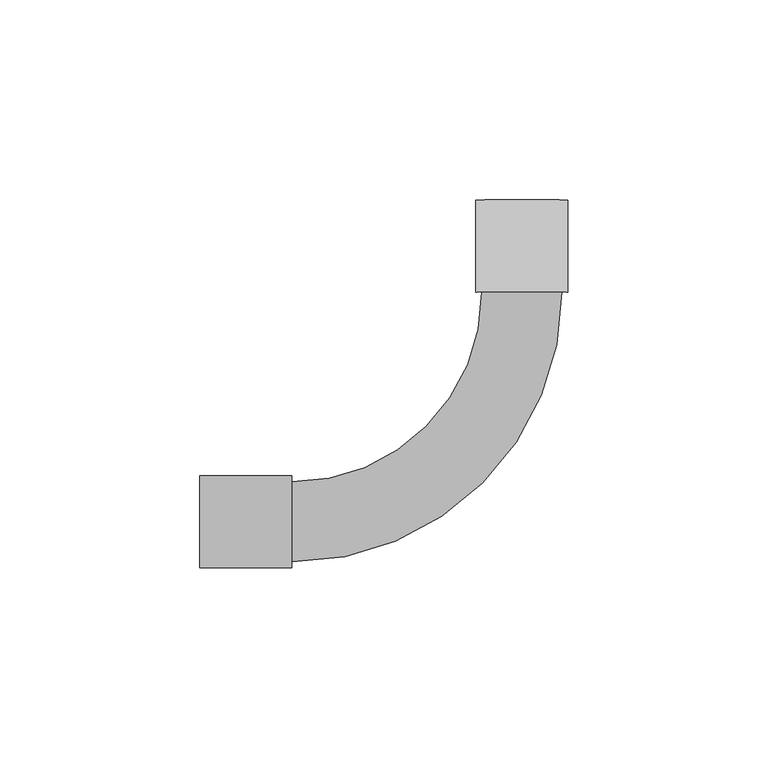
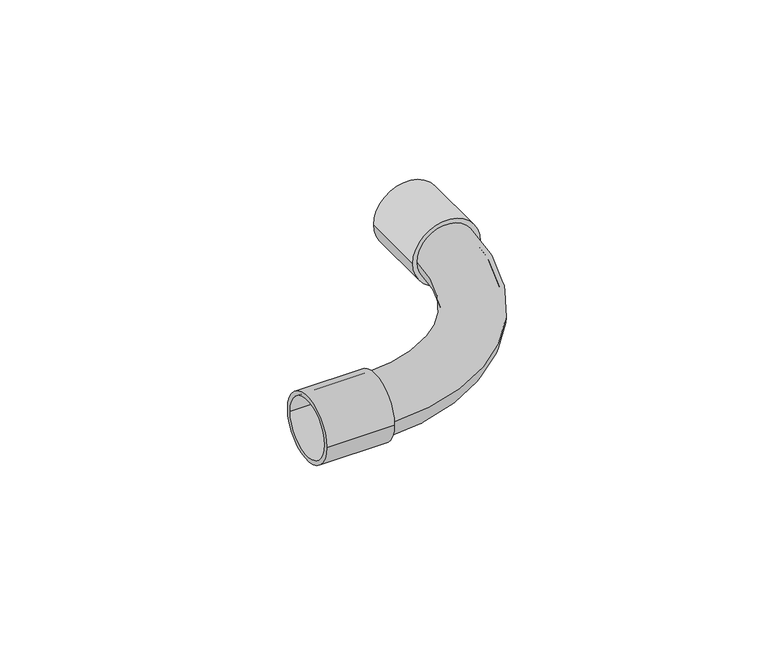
"""IFC4 building model written with IfcOpenShell, lengths in millimetres: cable carrier fitting geometry."""

import ifcopenshell
import ifcopenshell.guid

model = None  # the IFC model being written
_history = None  # IfcOwnerHistory: only IFC2X3 demands one
_inside = {}  # id of a spatial element -> (the spatial element, [elements in it])
_under = {}  # id of a project, library or spatial element -> (it, [spatial elements below it])
_declared = {}  # id of a project -> (the project, [libraries it declares])
_typed = {}  # id of a type object -> (the type object, [elements of that type])
_made_of = {}  # id of a material, layer set ... -> (it, [elements and type objects made of it])


def new_model(schema):
    """Start an empty IFC model of exactly this schema.

    Asked for "IFC4X3", IfcOpenShell would pick the latest addendum, in which some entities
    have other attributes; the version numbers below select the first issue.
    IFC2X3 requires an IfcOwnerHistory on every rooted entity: one is made here for all.
    """
    global model, _history
    if schema == "IFC4X3":
        model = ifcopenshell.file(schema_version=(4, 3, 0, 0))
    else:
        model = ifcopenshell.file(schema=schema)
    _inside.clear()
    _under.clear()
    _declared.clear()
    _typed.clear()
    _made_of.clear()
    _history = None
    if model.schema == "IFC2X3":
        org = make("IfcOrganization", Name="unknown")
        user = make(
            "IfcPersonAndOrganization",
            ThePerson=make("IfcPerson", FamilyName="unknown"),
            TheOrganization=org,
        )
        app = make(
            "IfcApplication",
            ApplicationDeveloper=org,
            Version="unknown",
            ApplicationFullName="unknown",
            ApplicationIdentifier="unknown",
        )
        _history = make(
            "IfcOwnerHistory",
            OwningUser=user,
            OwningApplication=app,
            ChangeAction="ADDED",
            CreationDate=0,
        )
    return model


def make(cls, **values):
    """One entity of the class cls with the attributes given. An attribute that is None is left unset."""
    return model.create_entity(
        cls, **{name: value for name, value in values.items() if value is not None}
    )


def rooted(cls, **values):
    """An entity with a GlobalId (a new one), such as an element, a storey or a relation."""
    return make(cls, GlobalId=ifcopenshell.guid.new(), OwnerHistory=_history, **values)


def si_unit(unit_type, name, prefix=None):
    """IfcSIUnit, for example si_unit("LENGTHUNIT", "METRE", prefix="MILLI")."""
    return make("IfcSIUnit", UnitType=unit_type, Prefix=prefix, Name=name)


def assignment(units):
    """IfcUnitAssignment: the units of a project."""
    return None if units is None else make("IfcUnitAssignment", Units=units)


def point(xyz):
    """IfcCartesianPoint."""
    return None if xyz is None else make("IfcCartesianPoint", Coordinates=xyz)


def direction(xyz):
    """IfcDirection."""
    return None if xyz is None else make("IfcDirection", DirectionRatios=xyz)


def frame(location, z_axis=None, x_axis=None):
    """IfcAxis2Placement3D, a coordinate frame: its origin and axes. An axis left out is left unset."""
    return make(
        "IfcAxis2Placement3D",
        Location=point(location),
        Axis=direction(z_axis),
        RefDirection=direction(x_axis),
    )


def frame_2d(location, x_axis=None):
    """IfcAxis2Placement2D, a coordinate frame in the plane: its origin and x axis."""
    return make(
        "IfcAxis2Placement2D", Location=point(location), RefDirection=direction(x_axis)
    )


def origin():
    """The frame at (0, 0, 0) with its axes left unset."""
    return frame((0.0, 0.0, 0.0))


def origin_2d():
    """The frame at (0, 0) in the plane with its x axis left unset."""
    return frame_2d((0.0, 0.0))


def place(relative_to, where):
    """IfcLocalPlacement: puts the frame where relative to a parent placement (None: the world)."""
    return make(
        "IfcLocalPlacement", PlacementRelTo=relative_to, RelativePlacement=where
    )


def context(
    kind, dimensions, precision=None, world=None, true_north=None, identifier=None
):
    """IfcGeometricRepresentationContext, for example the 3D "Model" context."""
    return make(
        "IfcGeometricRepresentationContext",
        ContextIdentifier=identifier,
        ContextType=kind,
        CoordinateSpaceDimension=dimensions,
        Precision=precision,
        WorldCoordinateSystem=world,
        TrueNorth=true_north,
    )


def project(units=None, contexts=None):
    """IfcProject with its units and contexts."""
    return rooted(
        "IfcProject",
        Name="project",
        RepresentationContexts=contexts,
        UnitsInContext=assignment(units),
    )


def spatial(cls, under=None, at=None, **own):
    """A site, building, storey or space (cls), placed at a placement, below another one or the project."""
    s = rooted(cls, ObjectPlacement=at, **own)
    if under is not None:
        _under.setdefault(under.id(), (under, []))[1].append(s)
    return s


def circle_curve(where, radius):
    """IfcCircle in the frame where."""
    return make("IfcCircle", Position=where, Radius=radius)


def ellipse_curve(where, semi_axis1, semi_axis2):
    """IfcEllipse in the frame where."""
    return make(
        "IfcEllipse", Position=where, SemiAxis1=semi_axis1, SemiAxis2=semi_axis2
    )


def trimmed(basis, trim1, trim2, sense, master):
    """IfcTrimmedCurve: the piece of a basis curve between two trims."""
    return make(
        "IfcTrimmedCurve",
        BasisCurve=basis,
        Trim1=trim1,
        Trim2=trim2,
        SenseAgreement=sense,
        MasterRepresentation=master,
    )


def segment(curve, same_sense, transition):
    """IfcCompositeCurveSegment."""
    return make(
        "IfcCompositeCurveSegment",
        Transition=transition,
        SameSense=same_sense,
        ParentCurve=curve,
    )


def composite_curve(segments, self_intersect=None):
    """IfcCompositeCurve: segments joined end to end."""
    return make("IfcCompositeCurve", Segments=segments, SelfIntersect=self_intersect)


def outline(outer, holes=None, kind="AREA"):
    """IfcArbitraryClosedProfileDef: a profile drawn as a closed curve; with holes, ...WithVoids."""
    if holes is None:
        return make("IfcArbitraryClosedProfileDef", ProfileType=kind, OuterCurve=outer)
    return make(
        "IfcArbitraryProfileDefWithVoids",
        ProfileType=kind,
        OuterCurve=outer,
        InnerCurves=holes,
    )


def extrude(swept, where, along, depth):
    """IfcExtrudedAreaSolid: the profile swept, set in the frame where, extruded along a direction by depth."""
    return make(
        "IfcExtrudedAreaSolid",
        SweptArea=swept,
        Position=where,
        ExtrudedDirection=direction(along),
        Depth=depth,
    )


def shape(context_of_items, identifier, shape_type, items):
    """IfcShapeRepresentation: the items that make up one representation, for example the "Body"."""
    return make(
        "IfcShapeRepresentation",
        ContextOfItems=context_of_items,
        RepresentationIdentifier=identifier,
        RepresentationType=shape_type,
        Items=items,
    )


def source(mapping_origin, context_of_items, identifier, shape_type, items):
    """IfcRepresentationMap: a shape defined once, which mapped items show again and again."""
    return make(
        "IfcRepresentationMap",
        MappingOrigin=mapping_origin,
        MappedRepresentation=shape(context_of_items, identifier, shape_type, items),
    )


def transform(
    local_origin,
    x_axis=None,
    y_axis=None,
    z_axis=None,
    scale=None,
    scale2=None,
    scale3=None,
    uniform=True,
):
    """IfcCartesianTransformationOperator3D, or its non-uniform kind. x_axis, y_axis, z_axis: its Axis1, 2, 3."""
    if uniform:
        return make(
            "IfcCartesianTransformationOperator3D",
            Axis1=direction(x_axis),
            Axis2=direction(y_axis),
            LocalOrigin=point(local_origin),
            Scale=scale,
            Axis3=direction(z_axis),
        )
    return make(
        "IfcCartesianTransformationOperator3DnonUniform",
        Axis1=direction(x_axis),
        Axis2=direction(y_axis),
        LocalOrigin=point(local_origin),
        Scale=scale,
        Axis3=direction(z_axis),
        Scale2=scale2,
        Scale3=scale3,
    )


def mapped(mapping_source, mapping_target):
    """IfcMappedItem: shows the shape of a source again, moved by a transform."""
    return make(
        "IfcMappedItem", MappingSource=mapping_source, MappingTarget=mapping_target
    )


def made_of(thing, what):
    """Note that an element or type object is made of a material, layer set ...; save() writes the relation."""
    if what is not None:
        _made_of.setdefault(what.id(), (what, []))[1].append(thing)
    return thing


def element(
    cls,
    number,
    at=None,
    inside=None,
    cuts=None,
    type_object=None,
    material=None,
    context=None,
    identifier="Body",
    shape_type=None,
    held_by="IfcProductDefinitionShape",
    body=None,
    shapes=None,
    **own,
):
    """One element of the class cls, such as IfcWall. Its Tag is "e" and its number.

    at: its placement. inside: the storey or other place that contains it. cuts: it is an
    opening in that element (IfcRelVoidsElement). A single representation is given by context,
    identifier, shape_type and body (its items); several are given by shapes. held_by: the class
    of the entity that holds the representations. save() writes the other relations.
    """
    e = rooted(cls, Tag="e%d" % number, ObjectPlacement=at, **own)
    if body is not None:
        shapes = [shape(context, identifier, shape_type, body)]
    if shapes is not None:
        e.Representation = make(held_by, Representations=shapes)
    if inside is not None:
        _inside.setdefault(inside.id(), (inside, []))[1].append(e)
    if cuts is not None:
        rooted(
            "IfcRelVoidsElement", RelatingBuildingElement=cuts, RelatedOpeningElement=e
        )
    if type_object is not None:
        _typed.setdefault(type_object.id(), (type_object, []))[1].append(e)
    return made_of(e, material)


def aggregate(whole, parts):
    """IfcRelAggregates: a whole, such as a stair, and the parts it consists of."""
    return rooted("IfcRelAggregates", RelatingObject=whole, RelatedObjects=parts)


def save(model, path):
    """Write the relations noted so far, then the file.

    IfcRelAggregates (storeys below a building ...), IfcRelContainedInSpatialStructure (elements
    in a storey), IfcRelDefinesByType, IfcRelAssociatesMaterial and IfcRelDeclares: one each for
    every whole, place, type object, material and project.
    """
    for whole, parts in _under.values():
        aggregate(whole, parts)
    for where, things in _inside.values():
        rooted(
            "IfcRelContainedInSpatialStructure",
            RelatedElements=things,
            RelatingStructure=where,
        )
    for kind, things in _typed.values():
        rooted("IfcRelDefinesByType", RelatedObjects=things, RelatingType=kind)
    for what, things in _made_of.values():
        rooted("IfcRelAssociatesMaterial", RelatedObjects=things, RelatingMaterial=what)
    for by, libraries in _declared.values():
        rooted("IfcRelDeclares", RelatingContext=by, RelatedDefinitions=libraries)
    model.write(path)


def plane_surface(at):
    """IfcPlane: the flat surface through the origin of the frame at, square to its z axis."""
    return make("IfcPlane", Position=at)


def revolved_surface(curve, axis_point, axis_direction):
    """IfcSurfaceOfRevolution: the curve turned about the line through axis_point along axis_direction."""
    return make(
        "IfcSurfaceOfRevolution",
        SweptCurve=make("IfcArbitraryOpenProfileDef", ProfileType="CURVE", Curve=curve),
        AxisPosition=make("IfcAxis1Placement", Location=point(axis_point), Axis=direction(axis_direction)),
    )


def advanced_brep(points, edges, surfaces, faces):
    """IfcAdvancedBrep: a solid bounded by faces that lie on surfaces and meet in shared edges.

    An edge is (start, end): straight between two places in points (the first is 0);
    or (start, end, curve); or (start, end, curve, False) where it runs against its curve.
    A face is (place in surfaces, loops), or (place, loops, False) where it looks against
    its surface's normal. A loop lists edges by number (the first is 1), with a minus sign
    where the edge is run from its end to its start. The first loop is the outer one.
    """
    corners = [point(p) for p in points]
    vertices = [make("IfcVertexPoint", VertexGeometry=c) for c in corners]
    made = []
    for start, end, *more in edges:
        made.append(
            make(
                "IfcEdgeCurve",
                EdgeStart=vertices[start],
                EdgeEnd=vertices[end],
                EdgeGeometry=more[0] if more else make("IfcPolyline", Points=[corners[start], corners[end]]),
                SameSense=more[1] if len(more) > 1 else True,
            )
        )
    hull = []
    for where, loops, *sense in faces:
        bounds = []
        for j, loop in enumerate(loops):
            ring = [make("IfcOrientedEdge", EdgeElement=made[abs(k) - 1], Orientation=k > 0) for k in loop]
            bounds.append(
                make(
                    "IfcFaceOuterBound" if j == 0 else "IfcFaceBound",
                    Bound=make("IfcEdgeLoop", EdgeList=ring),
                    Orientation=True,
                )
            )
        hull.append(make("IfcAdvancedFace", Bounds=bounds, FaceSurface=surfaces[where], SameSense=sense[0] if sense else True))
    return make("IfcAdvancedBrep", Outer=make("IfcClosedShell", CfsFaces=hull))


def cable_carrier_fitting_d5417fdc(model_context):
    return source(origin(), model_context, "Body", "SolidModel", [
        advanced_brep(
        [(-57.5, -10.0, 0.0), (-57.5, 10.0, 0.0), (-57.5, -8.5, 0.0), (-57.5, 8.5, 0.0), (10.0, 57.5, 0.0), (-10.0, 57.5, 0.0), (8.5, 57.5, 0.0), (-8.5, 57.5, 0.0)],
        [
            (0, 1, circle_curve(frame((-57.5, 0.0, 0.0), z_axis=(-1.0, 0.0, 0.0), x_axis=(0.0, 1.0, 0.0)), 10.0)),
            (1, 0, circle_curve(frame((-57.5, 0.0, 0.0), z_axis=(-1.0, 0.0, 0.0), x_axis=(0.0, 1.0, 0.0)), 10.0)),
            (2, 3, circle_curve(frame((-57.5, 0.0, 0.0), z_axis=(1.0, 0.0, 0.0), x_axis=(0.0, 1.0, 0.0)), 8.5)),
            (3, 2, circle_curve(frame((-57.5, 0.0, 0.0), z_axis=(1.0, 0.0, 0.0), x_axis=(0.0, 1.0, 0.0)), 8.5)),
            (4, 5, circle_curve(frame((0.0, 57.5, 0.0), z_axis=(0.0, 1.0, 0.0), x_axis=(-1.0, 0.0, 0.0)), 10.0)),
            (5, 4, circle_curve(frame((0.0, 57.5, 0.0), z_axis=(0.0, 1.0, 0.0), x_axis=(-1.0, 0.0, 0.0)), 10.0)),
            (6, 7, circle_curve(frame((0.0, 57.5, 0.0), z_axis=(0.0, -1.0, 0.0), x_axis=(-1.0, 0.0, 0.0)), 8.5)),
            (7, 6, circle_curve(frame((0.0, 57.5, 0.0), z_axis=(0.0, -1.0, 0.0), x_axis=(-1.0, 0.0, 0.0)), 8.5)),
            (5, 1, circle_curve(frame((-57.5, 57.5, 0.0), z_axis=(0.0, 0.0, -1.0), x_axis=(0.0, -1.0, 0.0)), 47.5)),
            (0, 4, circle_curve(frame((-57.5, 57.5, 0.0), z_axis=(0.0, 0.0, 1.0), x_axis=(0.0, -1.0, 0.0)), 67.5)),
            (7, 3, circle_curve(frame((-57.5, 57.5, 0.0), z_axis=(0.0, 0.0, -1.0), x_axis=(0.0, -1.0, 0.0)), 49.0)),
            (2, 6, circle_curve(frame((-57.5, 57.5, 0.0), z_axis=(0.0, 0.0, 1.0), x_axis=(0.0, -1.0, 0.0)), 66.0)),
        ],
        [
            plane_surface(frame((-57.5, 0.0, 0.0), z_axis=(-1.0, 0.0, 0.0), x_axis=(0.0, 0.0, 1.0))),
            plane_surface(frame((0.0, 57.5, 0.0), z_axis=(0.0, 1.0, 0.0), x_axis=(0.0, 0.0, 1.0))),
            revolved_surface(trimmed(ellipse_curve(frame((-57.5, 0.0, 0.0), z_axis=(-1.0, 0.0, 0.0), x_axis=(0.0, 1.0, 0.0)), 10.0, 10.0), [point((-57.5, -10.0, 0.0))], [point((-57.5, 10.0, 0.0))], True, "CARTESIAN"), (-57.5, 57.5, 0.0), (0.0, 0.0, 1.0)),
            revolved_surface(trimmed(ellipse_curve(frame((-57.5, 0.0, 0.0), z_axis=(-1.0, 0.0, 0.0), x_axis=(0.0, 1.0, 0.0)), 10.0, 10.0), [point((-57.5, 10.0, 0.0))], [point((-57.5, -10.0, 0.0))], True, "CARTESIAN"), (-57.5, 57.5, 0.0), (0.0, 0.0, 1.0)),
            revolved_surface(trimmed(ellipse_curve(frame((-57.5, 0.0, 0.0), z_axis=(1.0, 0.0, 0.0), x_axis=(0.0, 1.0, 0.0)), 8.5, 8.5), [point((-57.5, -8.5, 0.0))], [point((-57.5, 8.5, 0.0))], True, "CARTESIAN"), (-57.5, 57.5, 0.0), (0.0, 0.0, 1.0)),
            revolved_surface(trimmed(ellipse_curve(frame((-57.5, 0.0, 0.0), z_axis=(1.0, 0.0, 0.0), x_axis=(0.0, 1.0, 0.0)), 8.5, 8.5), [point((-57.5, 8.5, 0.0))], [point((-57.5, -8.5, 0.0))], True, "CARTESIAN"), (-57.5, 57.5, 0.0), (0.0, 0.0, 1.0)),
        ],
        [
            (0, [[1, 2], [3, 4]]),
            (1, [[5, 6], [7, 8]]),
            (2, [[9, -1, 10, -6]]),
            (3, [[-10, -2, -9, -5]]),
            (4, [[11, -3, 12, -8]]),
            (5, [[-12, -4, -11, -7]]),
        ],
    ),
        extrude(outline(composite_curve([segment(trimmed(circle_curve(origin_2d(), 11.5), [point((0.0, 11.5))], [point((0.0, -11.5))], False, "CARTESIAN"), True, "CONTINUOUS"), segment(trimmed(circle_curve(origin_2d(), 11.5), [point((0.0, -11.5))], [point((0.0, 11.5))], False, "CARTESIAN"), True, "CONTINUOUS")], self_intersect=False), holes=[composite_curve([segment(trimmed(circle_curve(origin_2d(), 10.0), [point((0.0, 10.0))], [point((0.0, -10.0))], True, "CARTESIAN"), True, "CONTINUOUS"), segment(trimmed(circle_curve(origin_2d(), 10.0), [point((0.0, -10.0))], [point((0.0, 10.0))], True, "CARTESIAN"), True, "CONTINUOUS")], self_intersect=False)]), frame((0.0, 57.5, 0.0), z_axis=(0.0, 1.0, 0.0), x_axis=(0.0, 0.0, 1.0)), (0.0, 0.0, 1.0), 23.0),
        extrude(outline(composite_curve([segment(trimmed(circle_curve(origin_2d(), 11.5), [point((-11.5, 0.0))], [point((11.5, 0.0))], False, "CARTESIAN"), True, "CONTINUOUS"), segment(trimmed(circle_curve(origin_2d(), 11.5), [point((11.5, 0.0))], [point((-11.5, 0.0))], False, "CARTESIAN"), True, "CONTINUOUS")], self_intersect=False), holes=[composite_curve([segment(trimmed(circle_curve(origin_2d(), 10.0), [point((-10.0, 0.0))], [point((10.0, 0.0))], True, "CARTESIAN"), True, "CONTINUOUS"), segment(trimmed(circle_curve(origin_2d(), 10.0), [point((10.0, 0.0))], [point((-10.0, 0.0))], True, "CARTESIAN"), True, "CONTINUOUS")], self_intersect=False)]), frame((-80.5, 0.0, 0.0), z_axis=(1.0, 0.0, 0.0), x_axis=(0.0, 1.0, 0.0)), (0.0, 0.0, 1.0), 23.0),
    ])


if __name__ == "__main__":
    model = new_model("IFC4")
    model_context = context("Model", 3, world=origin())
    ifc_project = project(units=[si_unit("LENGTHUNIT", "METRE", prefix="MILLI")], contexts=[model_context])
    site = spatial("IfcSite", under=ifc_project)
    building = spatial("IfcBuilding", under=site)
    placement = place(None, origin())
    cable_carrier_fitting_shape = cable_carrier_fitting_d5417fdc(model_context)
    element("IfcCableCarrierFitting", 1, at=placement, inside=building, context=model_context, shape_type="MappedRepresentation", body=[
        mapped(cable_carrier_fitting_shape, transform((0.0, 0.0, 0.0), x_axis=(1.0, 0.0, 0.0), y_axis=(0.0, 1.0, 0.0), z_axis=(0.0, 0.0, 1.0))),
    ])
    save(model, "model.ifc")
